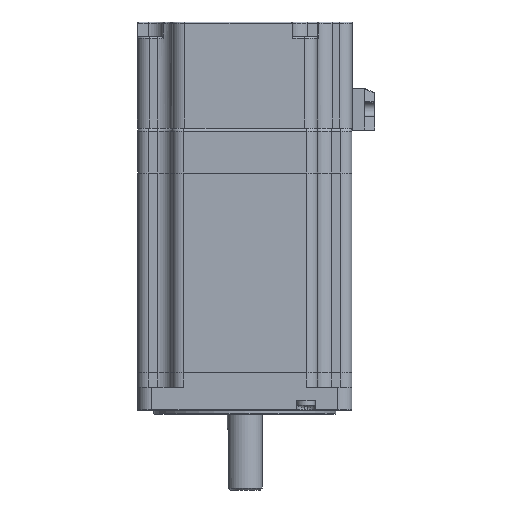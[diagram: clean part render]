
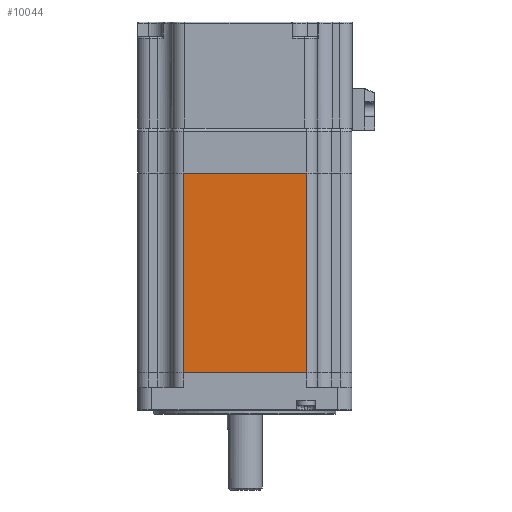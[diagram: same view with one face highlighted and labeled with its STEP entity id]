
A CAD part, left-side view. The second image highlights one B-rep face of the part: STEP entity #10044.
In plain terms, the highlighted planar face has unit normal (-1, 0, 0).
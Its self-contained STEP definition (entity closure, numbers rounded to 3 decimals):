
#238 = LINE ( 'NONE', #3673, #5283 ) ;
#293 = DIRECTION ( 'NONE',  ( 0., -1., 0. ) ) ;
#526 = VECTOR ( 'NONE', #2787, 1000. ) ;
#703 = VERTEX_POINT ( 'NONE', #3684 ) ;
#730 = PLANE ( 'NONE',  #3456 ) ;
#769 = EDGE_CURVE ( 'NONE', #7226, #703, #10434, .T. ) ;
#882 = EDGE_CURVE ( 'NONE', #9821, #7226, #14402, .T. ) ;
#1361 = CARTESIAN_POINT ( 'NONE',  ( -42.925, -24.65, 0. ) ) ;
#2787 = DIRECTION ( 'NONE',  ( 0., -1., 0. ) ) ;
#3456 = AXIS2_PLACEMENT_3D ( 'NONE', #12293, #8794, #10051 ) ;
#3673 = CARTESIAN_POINT ( 'NONE',  ( -42.925, 24.65, -80. ) ) ;
#3684 = CARTESIAN_POINT ( 'NONE',  ( -42.925, -24.65, 0. ) ) ;
#5283 = VECTOR ( 'NONE', #14051, 1000. ) ;
#5322 = CARTESIAN_POINT ( 'NONE',  ( -42.925, -24.65, -80. ) ) ;
#6894 = ORIENTED_EDGE ( 'NONE', *, *, #6961, .F. ) ;
#6902 = LINE ( 'NONE', #1361, #11049 ) ;
#6961 = EDGE_CURVE ( 'NONE', #12570, #703, #6902, .T. ) ;
#6999 = EDGE_CURVE ( 'NONE', #9821, #12570, #238, .T. ) ;
#7183 = CARTESIAN_POINT ( 'NONE',  ( -42.925, 24.65, -80. ) ) ;
#7226 = VERTEX_POINT ( 'NONE', #5322 ) ;
#8519 = CARTESIAN_POINT ( 'NONE',  ( -42.925, -24.65, -80. ) ) ;
#8666 = ORIENTED_EDGE ( 'NONE', *, *, #882, .T. ) ;
#8672 = CARTESIAN_POINT ( 'NONE',  ( -42.925, 24.65, 0. ) ) ;
#8794 = DIRECTION ( 'NONE',  ( -1., 0., 0. ) ) ;
#9654 = ORIENTED_EDGE ( 'NONE', *, *, #6999, .F. ) ;
#9821 = VERTEX_POINT ( 'NONE', #7183 ) ;
#10044 = ADVANCED_FACE ( 'NONE', ( #11082 ), #730, .T. ) ;
#10051 = DIRECTION ( 'NONE',  ( 0., 0., 1. ) ) ;
#10434 = LINE ( 'NONE', #14119, #10992 ) ;
#10528 = DIRECTION ( 'NONE',  ( 0., 0., 1. ) ) ;
#10641 = EDGE_LOOP ( 'NONE', ( #6894, #9654, #8666, #14197 ) ) ;
#10992 = VECTOR ( 'NONE', #10528, 1000. ) ;
#11049 = VECTOR ( 'NONE', #293, 1000. ) ;
#11082 = FACE_OUTER_BOUND ( 'NONE', #10641, .T. ) ;
#12293 = CARTESIAN_POINT ( 'NONE',  ( -42.925, -24.65, -80. ) ) ;
#12570 = VERTEX_POINT ( 'NONE', #8672 ) ;
#14051 = DIRECTION ( 'NONE',  ( 0., 0., 1. ) ) ;
#14119 = CARTESIAN_POINT ( 'NONE',  ( -42.925, -24.65, -80. ) ) ;
#14197 = ORIENTED_EDGE ( 'NONE', *, *, #769, .T. ) ;
#14402 = LINE ( 'NONE', #8519, #526 ) ;
